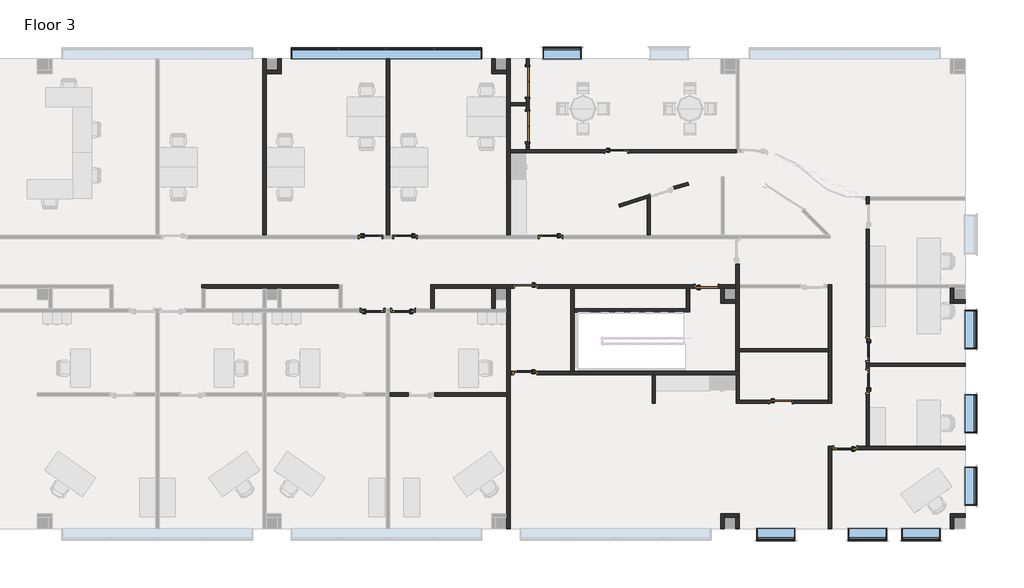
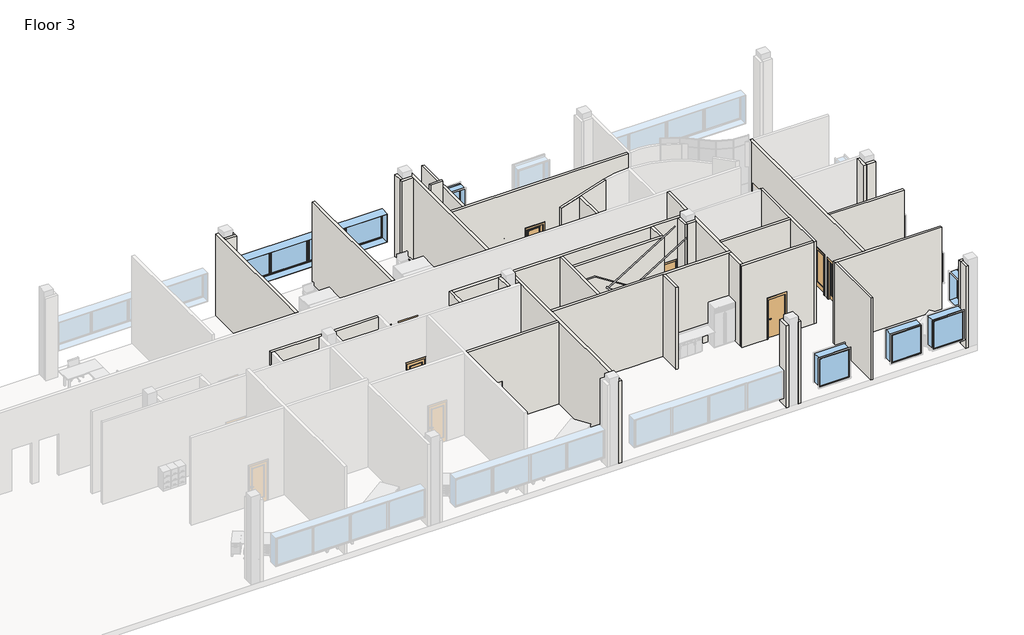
# One storey, part 3 of 6: 41 walls, 15 doors, 8 windows.
"""IFC4 building model written with IfcOpenShell, lengths in millimetres."""

from ifc_helpers import new_model, si_unit, frame, origin, place, context, project, spatial, polyline, outline, extrude, faceted_brep, transform, mapped, element, save
from components import door_4331e645, door_36f17018, door_a8315dbd, door_4cfbdd5f, door_4a7c4c71, door_b5f71497, door_dac99271, window_casement_multi_sash_horizontal_25_x_5ft_0e5d08e3, window_45f0c9e0

model = new_model("IFC4")

# Units and contexts
model_context = context("Model", 3, world=origin())
ifc_project = project(units=[si_unit("LENGTHUNIT", "METRE", prefix="MILLI")], contexts=[model_context])

# Site, building, storey
site = spatial("IfcSite", under=ifc_project)
building = spatial("IfcBuilding", under=site)
storey = spatial("IfcBuildingStorey", under=building, Name="Floor 3", Elevation=10210.8)

# Doors
placement = place(None, origin())
door_shape = door_4331e645(model_context)
element("IfcDoor", 1, ObjectType="Door-Double-Flush_Panel : 48\" x 84\"", at=placement, inside=storey, context=model_context, shape_type="MappedRepresentation", body=[
    mapped(door_shape, transform((44045.2192024, 56452.299389, 10210.8), x_axis=(0.0, -1.0, 0.0), y_axis=(1.0, 0.0, 0.0), z_axis=(0.0, 0.0, 1.0))),
])
element("IfcDoor", 2, ObjectType="Door-Double-Flush_Panel : 48\" x 84\"", at=placement, inside=storey, context=model_context, shape_type="MappedRepresentation", body=[
    mapped(door_shape, transform((44045.2192024, 54660.011889, 10210.8), x_axis=(0.0, -1.0, 0.0), y_axis=(1.0, 0.0, 0.0), z_axis=(0.0, 0.0, 1.0))),
])
door_2_shape = door_36f17018(model_context)
element("IfcDoor", 3, ObjectType="Door-Passage-Single-Flush : 36\" x 84\"", at=placement, inside=storey, context=model_context, shape_type="MappedRepresentation", body=[
    mapped(door_2_shape, transform((51188.9692024, 48297.311889, 10210.8), x_axis=(1.0, 0.0, 0.0), y_axis=(0.0, 1.0, 0.0), z_axis=(0.0, 0.0, 1.0))),
])
element("IfcDoor", 4, ObjectType="Door-Passage-Single-Flush : 36\" x 84\"", at=placement, inside=storey, context=model_context, shape_type="MappedRepresentation", body=[
    mapped(door_2_shape, transform((43969.0192024, 48284.611889, 10210.8), x_axis=(-1.0, 0.0, 0.0), y_axis=(0.0, -1.0, 0.0), z_axis=(0.0, 0.0, 1.0))),
])
door_3_shape = door_a8315dbd(model_context)
element("IfcDoor", 5, ObjectType="Door-Passage-Single-Flush : 36\" x 84\"", at=placement, inside=storey, context=model_context, shape_type="MappedRepresentation", body=[
    mapped(door_3_shape, transform((54154.4192024, 43674.511889, 10210.8), x_axis=(1.0, 0.0, 0.0), y_axis=(0.0, 1.0, 0.0), z_axis=(0.0, 0.0, 1.0))),
])
door_4_shape = door_4cfbdd5f(model_context)
element("IfcDoor", 6, ObjectType="Door-Passage-Single-Full_Lite : 36\" x 84\"", at=placement, inside=storey, context=model_context, shape_type="MappedRepresentation", body=[
    mapped(door_4_shape, transform((39149.3692024, 50253.111889, 10210.8), x_axis=(-1.0, 0.0, 0.0), y_axis=(0.0, -1.0, 0.0), z_axis=(0.0, 0.0, 1.0))),
])
element("IfcDoor", 7, ObjectType="Door-Passage-Single-Full_Lite : 36\" x 84\"", at=placement, inside=storey, context=model_context, shape_type="MappedRepresentation", body=[
    mapped(door_4_shape, transform((37853.9692024, 47338.461889, 10210.8), x_axis=(1.0, 0.0, 0.0), y_axis=(0.0, 1.0, 0.0), z_axis=(0.0, 0.0, 1.0))),
])
element("IfcDoor", 8, ObjectType="Door-Passage-Single-Full_Lite : 36\" x 84\"", at=placement, inside=storey, context=model_context, shape_type="MappedRepresentation", body=[
    mapped(door_4_shape, transform((44959.6192024, 50253.111889, 10210.8), x_axis=(-1.0, 0.0, 0.0), y_axis=(0.0, -1.0, 0.0), z_axis=(0.0, 0.0, 1.0))),
])
element("IfcDoor", 9, ObjectType="Door-Passage-Single-Full_Lite : 36\" x 84\"", at=placement, inside=storey, context=model_context, shape_type="MappedRepresentation", body=[
    mapped(door_4_shape, transform((43943.6192024, 44830.211889, 10210.8), x_axis=(-1.0, 0.0, 0.0), y_axis=(0.0, -1.0, 0.0), z_axis=(0.0, 0.0, 1.0))),
])
door_5_shape = door_4a7c4c71(model_context)
element("IfcDoor", 10, ObjectType="Door-Passage-Single-Full_Lite : 36\" x 84\"", at=placement, inside=storey, context=model_context, shape_type="MappedRepresentation", body=[
    mapped(door_5_shape, transform((37777.7692024, 50253.111889, 10210.8), x_axis=(1.0, 0.0, 0.0), y_axis=(0.0, 1.0, 0.0), z_axis=(0.0, 0.0, 1.0))),
])
element("IfcDoor", 11, ObjectType="Door-Passage-Single-Full_Lite : 36\" x 84\"", at=placement, inside=storey, context=model_context, shape_type="MappedRepresentation", body=[
    mapped(door_5_shape, transform((39073.1692024, 47338.461889, 10210.8), x_axis=(-1.0, 0.0, 0.0), y_axis=(0.0, -1.0, 0.0), z_axis=(0.0, 0.0, 1.0))),
])
door_6_shape = door_b5f71497(model_context)
element("IfcDoor", 12, ObjectType="Door-Passage-Single-Full_Lite : 36\" x 84\"", at=placement, inside=storey, context=model_context, shape_type="MappedRepresentation", body=[
    mapped(door_6_shape, transform((57608.8192024, 44497.8952223, 10210.8), x_axis=(0.0, 1.0, 0.0), y_axis=(-1.0, 0.0, 0.0), z_axis=(0.0, 0.0, 1.0))),
])
door_7_shape = door_dac99271(model_context)
element("IfcDoor", 13, ObjectType="Door-Passage-Single-Full_Lite : 36\" x 84\"", at=placement, inside=storey, context=model_context, shape_type="MappedRepresentation", body=[
    mapped(door_7_shape, transform((47582.1692024, 53675.761889, 10210.8), x_axis=(1.0, 0.0, 0.0), y_axis=(0.0, 1.0, 0.0), z_axis=(0.0, 0.0, 1.0))),
])
element("IfcDoor", 14, ObjectType="Door-Passage-Single-Full_Lite : 36\" x 84\"", at=placement, inside=storey, context=model_context, shape_type="MappedRepresentation", body=[
    mapped(door_7_shape, transform((57608.8192024, 45767.8952223, 10210.8), x_axis=(0.0, -1.0, 0.0), y_axis=(1.0, 0.0, 0.0), z_axis=(0.0, 0.0, 1.0))),
])
element("IfcDoor", 15, ObjectType="Door-Passage-Single-Full_Lite : 36\" x 84\"", at=placement, inside=storey, context=model_context, shape_type="MappedRepresentation", body=[
    mapped(door_7_shape, transform((56719.8192024, 41845.711889, 10210.8), x_axis=(-1.0, 0.0, 0.0), y_axis=(0.0, -1.0, 0.0), z_axis=(0.0, 0.0, 1.0))),
])

# Walls
element("IfcWall", 16, ObjectType="Interior - 4 7/8\" Partition (1-hr)", at=placement, inside=storey, context=model_context, shape_type="Brep", body=[
    faceted_brep([(48090.1692024, 53620.199389, 12446.0), (48090.1692024, 53620.199389, 10210.8), (52365.3067024, 53620.199389, 10210.8), (52365.3067024, 53620.199389, 14630.4), (43353.0692024, 53620.199389, 14630.4), (43353.0692024, 53620.199389, 10210.8), (47074.1692024, 53620.199389, 10210.8), (47074.1692024, 53620.199389, 12446.0), (52365.3067024, 53744.024389, 10210.8), (48090.1692024, 53744.024389, 10210.8), (48090.1692024, 53744.024389, 12446.0), (47074.1692024, 53744.024389, 12446.0), (47074.1692024, 53744.024389, 10210.8), (44107.1317024, 53744.024389, 10210.8), (43983.3067024, 53744.024389, 10210.8), (43353.0692024, 53744.024389, 10210.8), (43353.0692024, 53744.024389, 14630.4), (43983.3067024, 53744.024389, 14630.4), (44107.1317024, 53744.024389, 14630.4), (52365.3067024, 53744.024389, 14630.4)], [[[0, 1, 2, 3, 4, 5, 6, 7]], [[8, 9, 10, 11, 12, 13, 14, 15, 16, 17, 18, 19]], [[2, 1, 9, 8]], [[6, 5, 15, 14, 13, 12]], [[8, 19, 3, 2]], [[16, 15, 5, 4]], [[19, 18, 17, 16, 4, 3]], [[10, 9, 1, 0]], [[11, 10, 0, 7]], [[12, 11, 7, 6]]]),
])
element("IfcWall", 17, ObjectType="Interior - 4 7/8\" Partition (1-hr)", at=placement, inside=storey, context=model_context, shape_type="Brep", body=[
    faceted_brep([(56048.3067024, 41777.449389, 10210.8), (56172.1317024, 41777.449389, 10210.8), (56211.8192024, 41777.449389, 10210.8), (56211.8192024, 41777.449389, 12446.0), (57227.8192024, 41777.449389, 12446.0), (57227.8192024, 41777.449389, 10210.8), (61502.9567024, 41777.449389, 10210.8), (61502.9567024, 41777.449389, 14630.4), (56172.1317024, 41777.449389, 14630.4), (56048.3067024, 41777.449389, 14630.4), (56211.8192024, 41901.274389, 12446.0), (56211.8192024, 41901.274389, 10210.8), (56048.3067024, 41901.274389, 10210.8), (56048.3067024, 41901.274389, 14630.4), (57553.2567024, 41901.274389, 14630.4), (57677.0817024, 41901.274389, 14630.4), (61502.9567024, 41901.274389, 14630.4), (61502.9567024, 41901.274389, 10210.8), (57677.0817024, 41901.274389, 10210.8), (57553.2567024, 41901.274389, 10210.8), (57227.8192024, 41901.274389, 10210.8), (57227.8192024, 41901.274389, 12446.0)], [[[0, 1, 2, 3, 4, 5, 6, 7, 8, 9]], [[10, 11, 12, 13, 14, 15, 16, 17, 18, 19, 20, 21]], [[12, 11, 2, 1, 0]], [[20, 19, 18, 17, 6, 5]], [[17, 16, 7, 6]], [[16, 15, 14, 13, 9, 8, 7]], [[13, 12, 0, 9]], [[3, 2, 11, 10]], [[4, 3, 10, 21]], [[5, 4, 21, 20]]]),
])
element("IfcWall", 18, ObjectType="Interior - 4 7/8\" Partition (1-hr)", at=placement, inside=storey, context=model_context, shape_type="Brep", body=[
    faceted_brep([(57553.2567024, 45259.8952223, 10210.8), (57553.2567024, 45005.8952223, 10210.8), (57553.2567024, 45005.8952223, 12446.0), (57553.2567024, 43989.8952223, 12446.0), (57553.2567024, 43989.8952223, 10210.8), (57553.2567024, 41901.274389, 10210.8), (57553.2567024, 41901.274389, 14630.4), (57553.2567024, 51740.023538, 14630.4), (57553.2567024, 51858.074389, 14630.4), (57553.2567024, 51858.074389, 10210.8), (57553.2567024, 51740.023538, 10210.8), (57553.2567024, 51592.961889, 10210.8), (57553.2567024, 51592.961889, 12446.0), (57553.2567024, 50576.961889, 12446.0), (57553.2567024, 50576.961889, 10210.8), (57553.2567024, 46275.8952223, 10210.8), (57553.2567024, 46275.8952223, 12446.0), (57553.2567024, 45259.8952223, 12446.0), (57677.0817024, 45005.8952223, 12446.0), (57677.0817024, 45005.8952223, 10210.8), (57677.0817024, 45096.3827223, 10210.8), (57677.0817024, 45220.2077223, 10210.8), (57677.0817024, 45259.8952223, 10210.8), (57677.0817024, 45259.8952223, 12446.0), (57677.0817024, 46275.8952223, 12446.0), (57677.0817024, 46275.8952223, 10210.8), (57677.0817024, 48236.986889, 10210.8), (57677.0817024, 48360.811889, 10210.8), (57677.0817024, 50576.961889, 10210.8), (57677.0817024, 50576.961889, 12446.0), (57677.0817024, 51592.961889, 12446.0), (57677.0817024, 51592.961889, 10210.8), (57677.0817024, 51734.249389, 10210.8), (57677.0817024, 51858.074389, 10210.8), (57677.0817024, 51858.074389, 14630.4), (57677.0817024, 51734.249389, 14630.4), (57677.0817024, 48360.811889, 14630.4), (57677.0817024, 48236.986889, 14630.4), (57677.0817024, 45220.2077223, 14630.4), (57677.0817024, 45096.3827223, 14630.4), (57677.0817024, 41901.274389, 14630.4), (57677.0817024, 41901.274389, 10210.8), (57677.0817024, 43989.8952223, 10210.8), (57677.0817024, 43989.8952223, 12446.0), (57618.0176704, 51858.074389, 10210.8), (57618.0176704, 51858.074389, 14630.4)], [[[0, 1, 2, 3, 4, 5, 6, 7, 8, 9, 10, 11, 12, 13, 14, 15, 16, 17]], [[18, 19, 20, 21, 22, 23, 24, 25, 26, 27, 28, 29, 30, 31, 32, 33, 34, 35, 36, 37, 38, 39, 40, 41, 42, 43]], [[33, 32, 31, 11, 10, 9, 44]], [[22, 21, 20, 19, 1, 0]], [[15, 14, 28, 27, 26, 25]], [[42, 41, 5, 4]], [[41, 40, 6, 5]], [[34, 33, 44, 9, 8, 45]], [[40, 39, 38, 37, 36, 35, 34, 45, 8, 7, 6]], [[12, 11, 31, 30]], [[13, 12, 30, 29]], [[14, 13, 29, 28]], [[23, 22, 0, 17]], [[24, 23, 17, 16]], [[25, 24, 16, 15]], [[2, 1, 19, 18]], [[3, 2, 18, 43]], [[4, 3, 43, 42]]]),
])
element("IfcWall", 19, ObjectType="Interior - 4 7/8\" Partition (1-hr)", at=placement, inside=storey, context=model_context, shape_type="SweptSolid", body=[
    extrude(outline(polyline([(57677.0817024, 45220.2077223), (61502.9567024, 45220.2077223), (61502.9567024, 45096.3827223), (57677.0817024, 45096.3827223), (57677.0817024, 45220.2077223)])), frame((0.0, 0.0, 10210.8), z_axis=(0.0, 0.0, 1.0), x_axis=(1.0, 0.0, 0.0)), (0.0, 0.0, 1.0), 4419.6),
])
element("IfcWall", 20, ObjectType="Interior - 4 7/8\" Partition (1-hr)", at=placement, inside=storey, context=model_context, shape_type="SweptSolid", body=[
    extrude(outline(polyline([(48939.4817024, 51844.9624606), (48939.4817024, 50329.311889), (48815.6567024, 50329.311889), (48815.6567024, 51805.4881798), (48939.4817024, 51844.9624606)])), frame((0.0, 0.0, 10210.8), z_axis=(0.0, 0.0, 1.0), x_axis=(1.0, 0.0, 0.0)), (0.0, 0.0, 1.0), 4419.6),
])
element("IfcWall", 21, ObjectType="Interior - 4 7/8\" Partition (1-hr)", at=placement, inside=storey, context=model_context, shape_type="Brep", body=[
    faceted_brep([(56048.3067024, 48352.874389, 10210.8), (56048.3067024, 48229.049389, 10210.8), (56048.3067024, 45800.174389, 10210.8), (56048.3067024, 45676.349389, 10210.8), (56048.3067024, 43742.774389, 10210.8), (56048.3067024, 43618.949389, 10210.8), (56048.3067024, 43618.949389, 14630.4), (56048.3067024, 43742.774389, 14630.4), (56048.3067024, 45676.349389, 14630.4), (56048.3067024, 45800.174389, 14630.4), (56048.3067024, 48229.049389, 14630.4), (56048.3067024, 48352.874389, 14630.4), (56172.1317024, 48352.874389, 10210.8), (56172.1317024, 48352.874389, 14630.4), (56172.1317024, 43618.949389, 14630.4), (56172.1317024, 43618.949389, 10210.8)], [[[0, 1, 2, 3, 4, 5, 6, 7, 8, 9, 10, 11]], [[12, 13, 14, 15]], [[5, 4, 3, 2, 1, 0, 12, 15]], [[6, 5, 15, 14]], [[0, 11, 13, 12]], [[11, 10, 9, 8, 7, 6, 14, 13]]]),
])
element("IfcWall", 22, ObjectType="Interior - 4 7/8\" Partition (1-hr)", at=placement, inside=storey, context=model_context, shape_type="Brep", body=[
    faceted_brep([(54662.4192024, 43618.949389, 12446.0), (54662.4192024, 43618.949389, 10210.8), (56048.3067024, 43618.949389, 10210.8), (56048.3067024, 43618.949389, 14630.4), (52371.6567024, 43618.949389, 14630.4), (52371.6567024, 43618.949389, 10210.8), (53646.4192024, 43618.949389, 10210.8), (53646.4192024, 43618.949389, 12446.0), (56048.3067024, 43742.774389, 10210.8), (54662.4192024, 43742.774389, 10210.8), (54662.4192024, 43742.774389, 12446.0), (53646.4192024, 43742.774389, 12446.0), (53646.4192024, 43742.774389, 10210.8), (52495.4817024, 43742.774389, 10210.8), (52371.6567024, 43742.774389, 10210.8), (52371.6567024, 43742.774389, 14630.4), (52495.4817024, 43742.774389, 14630.4), (56048.3067024, 43742.774389, 14630.4)], [[[0, 1, 2, 3, 4, 5, 6, 7]], [[8, 9, 10, 11, 12, 13, 14, 15, 16, 17]], [[2, 1, 9, 8]], [[6, 5, 14, 13, 12]], [[8, 17, 3, 2]], [[15, 14, 5, 4]], [[17, 16, 15, 4, 3]], [[10, 9, 1, 0]], [[11, 10, 0, 7]], [[12, 11, 7, 6]]]),
])
element("IfcWall", 23, ObjectType="Interior - 4 7/8\" Partition (1-hr)", at=placement, inside=storey, context=model_context, shape_type="SweptSolid", body=[
    extrude(outline(polyline([(52495.4817024, 44766.711889), (52495.4817024, 43742.774389), (52371.6567024, 43742.774389), (52371.6567024, 44766.711889), (52495.4817024, 44766.711889)])), frame((0.0, 0.0, 10210.8), z_axis=(0.0, 0.0, 1.0), x_axis=(1.0, 0.0, 0.0)), (0.0, 0.0, 1.0), 4419.6),
])
element("IfcWall", 24, ObjectType="Interior - 4 7/8\" Partition (1-hr)", at=placement, inside=storey, context=model_context, shape_type="SweptSolid", body=[
    extrude(outline(polyline([(49012.5067024, 43617.361889), (49012.5067024, 44766.711889), (49136.3317024, 44766.711889), (49136.3317024, 43617.361889), (49012.5067024, 43617.361889)])), frame((0.0, 0.0, 10210.8), z_axis=(0.0, 0.0, 1.0), x_axis=(1.0, 0.0, 0.0)), (0.0, 0.0, 1.0), 4419.6),
])
element("IfcWall", 25, ObjectType="Interior - 4 7/8\" Partition (1-hr)", at=placement, inside=storey, context=model_context, shape_type="SweptSolid", body=[
    extrude(outline(polyline([(52497.0692024, 45800.174389), (56048.3067024, 45800.174389), (56048.3067024, 45676.349389), (52497.0692024, 45676.349389), (52497.0692024, 45800.174389)])), frame((0.0, 0.0, 10210.8), z_axis=(0.0, 0.0, 1.0), x_axis=(1.0, 0.0, 0.0)), (0.0, 0.0, 1.0), 4419.6),
])
element("IfcWall", 26, ObjectType="Interior - 4 7/8\" Partition (1-hr)", at=placement, inside=storey, context=model_context, shape_type="SweptSolid", body=[
    extrude(outline(polyline([(56048.3067024, 38618.324389), (56048.3067024, 41777.449389), (56172.1317024, 41777.449389), (56172.1317024, 38618.324389), (56048.3067024, 38618.324389)])), frame((0.0, 0.0, 10210.8), z_axis=(0.0, 0.0, 1.0), x_axis=(1.0, 0.0, 0.0)), (0.0, 0.0, 1.0), 4419.6),
])
element("IfcWall", 27, ObjectType="Interior - 4 7/8\" Partition (1-hr)", at=placement, inside=storey, context=model_context, shape_type="Brep", body=[
    faceted_brep([(43983.3067024, 53744.024389, 14630.4), (43983.3067024, 57366.699389, 14630.4), (43983.3067024, 57366.699389, 10210.8), (43983.3067024, 57061.899389, 10210.8), (43983.3067024, 57061.899389, 12344.4), (43983.3067024, 55842.699389, 12344.4), (43983.3067024, 55842.699389, 10210.8), (43983.3067024, 55618.068139, 10210.8), (43983.3067024, 55494.243139, 10210.8), (43983.3067024, 55269.611889, 10210.8), (43983.3067024, 55269.611889, 12344.4), (43983.3067024, 54050.411889, 12344.4), (43983.3067024, 54050.411889, 10210.8), (43983.3067024, 53744.024389, 10210.8), (44107.1317024, 57366.699389, 14630.4), (44107.1317024, 53744.024389, 14630.4), (44107.1317024, 53744.024389, 10210.8), (44107.1317024, 54050.411889, 10210.8), (44107.1317024, 54050.411889, 12344.4), (44107.1317024, 55269.611889, 12344.4), (44107.1317024, 55269.611889, 10210.8), (44107.1317024, 55842.699389, 10210.8), (44107.1317024, 55842.699389, 12344.4), (44107.1317024, 57061.899389, 12344.4), (44107.1317024, 57061.899389, 10210.8), (44107.1317024, 57366.699389, 10210.8)], [[[0, 1, 2, 3, 4, 5, 6, 7, 8, 9, 10, 11, 12, 13]], [[14, 15, 16, 17, 18, 19, 20, 21, 22, 23, 24, 25]], [[2, 25, 24, 3]], [[16, 13, 12, 17]], [[6, 21, 20, 9, 8, 7]], [[15, 14, 1, 0]], [[14, 25, 2, 1]], [[16, 15, 0, 13]], [[5, 22, 21, 6]], [[22, 5, 4, 23]], [[23, 4, 3, 24]], [[11, 18, 17, 12]], [[18, 11, 10, 19]], [[19, 10, 9, 20]]]),
])
element("IfcWall", 28, ObjectType="Interior - 4 7/8\" Partition (1-hr)", at=placement, inside=storey, context=model_context, shape_type="SweptSolid", body=[
    extrude(outline(polyline([(43353.0692024, 55618.068139), (43983.3067024, 55618.068139), (43983.3067024, 55494.243139), (43353.0692024, 55494.243139), (43353.0692024, 55618.068139)])), frame((0.0, 0.0, 10210.8), z_axis=(0.0, 0.0, 1.0), x_axis=(1.0, 0.0, 0.0)), (0.0, 0.0, 1.0), 4724.4),
])
element("IfcWall", 29, ObjectType="Interior - 4 7/8\" Partition (1-hr)", at=placement, inside=storey, context=model_context, shape_type="Brep", body=[
    faceted_brep([(47674.7585037, 51571.745039, 10210.8), (47674.7585037, 51571.745039, 14630.4), (50433.5644845, 52451.2272276, 14630.4), (50433.5644845, 52451.2272276, 10210.8), (49876.9632779, 52273.7878387, 10210.8), (49876.9632779, 52273.7878387, 12446.0), (48908.9611793, 51965.1975971, 12446.0), (48908.9611793, 51965.1975971, 10210.8), (47712.3679394, 51453.7697832, 14630.4), (47712.3679394, 51453.7697832, 10210.8), (48815.6567024, 51805.4881798, 10210.8), (48939.4817024, 51844.9624606, 10210.8), (48946.570615, 51847.2223413, 10210.8), (48946.570615, 51847.2223413, 12446.0), (49914.5727136, 52155.8125829, 12446.0), (49914.5727136, 52155.8125829, 10210.8), (50471.1739202, 52333.2519719, 10210.8), (50471.1739202, 52333.2519719, 14630.4), (48939.4817024, 51844.9624606, 14630.4), (48815.6567024, 51805.4881798, 14630.4)], [[[0, 1, 2, 3, 4, 5, 6, 7]], [[8, 9, 10, 11, 12, 13, 14, 15, 16, 17, 18, 19]], [[9, 0, 7, 12, 11, 10]], [[3, 16, 15, 4]], [[1, 0, 9, 8]], [[3, 2, 17, 16]], [[6, 13, 12, 7]], [[13, 6, 5, 14]], [[14, 5, 4, 15]], [[2, 1, 8, 19, 18, 17]]]),
])
element("IfcWall", 30, ObjectType="Interior - 5 1/2\" Partition (1-hr)", at=placement, inside=storey, context=model_context, shape_type="SweptSolid", body=[
    extrude(outline(polyline([(50382.5192024, 47401.961889), (50382.5192024, 48221.111889), (50522.2192024, 48221.111889), (50522.2192024, 47401.961889), (50382.5192024, 47401.961889)])), frame((0.0, 0.0, 10210.8), z_axis=(0.0, 0.0, 1.0), x_axis=(1.0, 0.0, 0.0)), (0.0, 0.0, 1.0), 4419.6),
])
element("IfcWall", 31, ObjectType="Interior - 5 1/2\" Partition (1-hr)", at=placement, inside=storey, context=model_context, shape_type="Brep", body=[
    faceted_brep([(51760.4692024, 48221.111889, 10210.8), (51760.4692024, 47624.211889, 10210.8), (51760.4692024, 47624.211889, 14630.4), (51760.4692024, 48221.111889, 14630.4), (51900.1692024, 48221.111889, 10210.8), (51900.1692024, 48221.111889, 14630.4), (51900.1692024, 47763.911889, 14630.4), (51900.1692024, 47624.211889, 14630.4), (51900.1692024, 47624.211889, 10210.8), (51900.1692024, 47763.911889, 10210.8)], [[[0, 1, 2, 3]], [[4, 5, 6, 7, 8, 9]], [[1, 0, 4, 9, 8]], [[2, 1, 8, 7]], [[0, 3, 5, 4]], [[3, 2, 7, 6, 5]]]),
])
element("IfcWall", 32, ObjectType="Interior - 5 1/2\" Partition (1-hr)", at=placement, inside=storey, context=model_context, shape_type="SweptSolid", body=[
    extrude(outline(polyline([(51900.1692024, 47763.911889), (52357.3692024, 47763.911889), (52357.3692024, 47624.211889), (51900.1692024, 47624.211889), (51900.1692024, 47763.911889)])), frame((0.0, 0.0, 10210.8), z_axis=(0.0, 0.0, 1.0), x_axis=(1.0, 0.0, 0.0)), (0.0, 0.0, 1.0), 4419.6),
])
element("IfcWall", 33, ObjectType="Interior - 5 1/2\" Partition (1-hr)", at=placement, inside=storey, context=model_context, shape_type="Brep", body=[
    faceted_brep([(45759.7192024, 48221.111889, 10210.8), (45759.7192024, 44906.411889, 10210.8), (45759.7192024, 44906.411889, 14630.4), (45759.7192024, 48221.111889, 14630.4), (45899.4192024, 48221.111889, 10210.8), (45899.4192024, 48221.111889, 14630.4), (45899.4192024, 47401.961889, 14630.4), (45899.4192024, 47262.261889, 14630.4), (45899.4192024, 44906.411889, 14630.4), (45899.4192024, 44906.411889, 10210.8), (45899.4192024, 47262.261889, 10210.8), (45899.4192024, 47401.961889, 10210.8)], [[[0, 1, 2, 3]], [[4, 5, 6, 7, 8, 9, 10, 11]], [[1, 0, 4, 11, 10, 9]], [[2, 1, 9, 8]], [[0, 3, 5, 4]], [[3, 2, 8, 7, 6, 5]]]),
])
element("IfcWall", 34, ObjectType="Interior - 5 1/2\" Partition (1-hr)", at=placement, inside=storey, context=model_context, shape_type="Brep", body=[
    faceted_brep([(43435.6192024, 44906.411889, 12446.0), (43435.6192024, 44906.411889, 10210.8), (43353.0692024, 44906.411889, 10210.8), (43353.0692024, 44906.411889, 14630.4), (45759.7192024, 44906.411889, 14630.4), (45899.4192024, 44906.411889, 14630.4), (50327.5398084, 44906.411889, 14630.4), (52357.3692024, 44906.411889, 14630.4), (52495.4817024, 44906.411889, 14630.4), (52495.4817024, 44906.411889, 10210.8), (52357.3692024, 44906.411889, 10210.8), (45899.4192024, 44906.411889, 10210.8), (45759.7192024, 44906.411889, 10210.8), (44451.6192024, 44906.411889, 10210.8), (44451.6192024, 44906.411889, 12446.0), (43353.0692024, 44766.711889, 10210.8), (43435.6192024, 44766.711889, 10210.8), (43435.6192024, 44766.711889, 12446.0), (44451.6192024, 44766.711889, 12446.0), (44451.6192024, 44766.711889, 10210.8), (49012.5067024, 44766.711889, 10210.8), (49136.3317024, 44766.711889, 10210.8), (52371.6567024, 44766.711889, 10210.8), (52495.4817024, 44766.711889, 10210.8), (52495.4817024, 44766.711889, 14630.4), (52371.6567024, 44766.711889, 14630.4), (49136.3317024, 44766.711889, 14630.4), (49012.5067024, 44766.711889, 14630.4), (43353.0692024, 44766.711889, 14630.4)], [[[0, 1, 2, 3, 4, 5, 6, 7, 8, 9, 10, 11, 12, 13, 14]], [[15, 16, 17, 18, 19, 20, 21, 22, 23, 24, 25, 26, 27, 28]], [[2, 1, 16, 15]], [[13, 12, 11, 10, 9, 23, 22, 21, 20, 19]], [[15, 28, 3, 2]], [[24, 23, 9, 8]], [[28, 27, 26, 25, 24, 8, 7, 6, 5, 4, 3]], [[17, 16, 1, 0]], [[18, 17, 0, 14]], [[19, 18, 14, 13]]]),
])
element("IfcWall", 35, ObjectType="Interior - 5 1/2\" Partition (1-hr)", at=placement, inside=storey, context=model_context, shape_type="Brep", body=[
    faceted_brep([(45899.4192024, 47262.261889, 10210.8), (50522.2192024, 47262.261889, 10210.8), (50522.2192024, 47262.261889, 14630.4), (50253.8139908, 47262.261889, 14630.4), (45899.4192024, 47262.261889, 14630.4), (45899.4192024, 47401.961889, 10210.8), (45899.4192024, 47401.961889, 14630.4), (50382.5192024, 47401.961889, 14630.4), (50522.2192024, 47401.961889, 14630.4), (50522.2192024, 47401.961889, 10210.8), (50382.5192024, 47401.961889, 10210.8)], [[[0, 1, 2, 3, 4]], [[5, 6, 7, 8, 9, 10]], [[1, 0, 5, 10, 9]], [[2, 1, 9, 8]], [[0, 4, 6, 5]], [[4, 3, 2, 8, 7, 6]]]),
])
element("IfcWall", 36, ObjectType="Interior - 5 1/2\" Partition (1-hr)", at=placement, inside=storey, context=model_context, shape_type="Brep", body=[
    faceted_brep([(43213.3692024, 48221.111889, 10210.8), (43213.3692024, 47401.961889, 10210.8), (43213.3692024, 47262.261889, 10210.8), (43213.3692024, 44049.161889, 10210.8), (43213.3692024, 43909.461889, 10210.8), (43213.3692024, 39216.811889, 10210.8), (43213.3692024, 39077.111889, 10210.8), (43213.3692024, 38618.324389, 10210.8), (43213.3692024, 38618.324389, 14630.4), (43213.3692024, 39077.111889, 14630.4), (43213.3692024, 39216.811889, 14630.4), (43213.3692024, 43909.461889, 14630.4), (43213.3692024, 44049.161889, 14630.4), (43213.3692024, 47262.261889, 14630.4), (43213.3692024, 47401.961889, 14630.4), (43213.3692024, 48221.111889, 14630.4), (43353.0692024, 48221.111889, 10210.8), (43353.0692024, 48221.111889, 14630.4), (43353.0692024, 44906.411889, 14630.4), (43353.0692024, 44766.711889, 14630.4), (43353.0692024, 38618.324389, 14630.4), (43353.0692024, 38618.324389, 10210.8), (43353.0692024, 44766.711889, 10210.8), (43353.0692024, 44906.411889, 10210.8)], [[[0, 1, 2, 3, 4, 5, 6, 7, 8, 9, 10, 11, 12, 13, 14, 15]], [[16, 17, 18, 19, 20, 21, 22, 23]], [[7, 6, 5, 4, 3, 2, 1, 0, 16, 23, 22, 21]], [[8, 7, 21, 20]], [[0, 15, 17, 16]], [[15, 14, 13, 12, 11, 10, 9, 8, 20, 19, 18, 17]]]),
])
element("IfcWall", 37, ObjectType="Interior - 5 1/2\" Partition (1-hr)", at=placement, inside=storey, context=model_context, shape_type="Brep", body=[
    faceted_brep([(43353.0692024, 50329.311889, 10210.8), (43353.0692024, 53620.199389, 10210.8), (43353.0692024, 53744.024389, 10210.8), (43353.0692024, 55494.243139, 10210.8), (43353.0692024, 55618.068139, 10210.8), (43353.0692024, 57366.699389, 10210.8), (43353.0692024, 57366.699389, 14630.4), (43353.0692024, 53744.024389, 14630.4), (43353.0692024, 53620.199389, 14630.4), (43353.0692024, 50329.311889, 14630.4), (43213.3692024, 50329.311889, 10210.8), (43213.3692024, 50329.311889, 14630.4), (43213.3692024, 56768.211889, 14630.4), (43213.3692024, 56907.911889, 14630.4), (43213.3692024, 57366.699389, 14630.4), (43213.3692024, 57366.699389, 10210.8), (43213.3692024, 56907.911889, 10210.8), (43213.3692024, 56768.211889, 10210.8)], [[[0, 1, 2, 3, 4, 5, 6, 7, 8, 9]], [[10, 11, 12, 13, 14, 15, 16, 17]], [[5, 4, 3, 2, 1, 0, 10, 17, 16, 15]], [[0, 9, 11, 10]], [[6, 5, 15, 14]], [[9, 8, 7, 6, 14, 13, 12, 11]]]),
])
element("IfcWall", 38, ObjectType="Interior - 5 1/2\" Partition (1-hr)", at=placement, inside=storey, context=model_context, shape_type="Brep", body=[
    faceted_brep([(43213.3692024, 56907.911889, 10210.8), (42756.1692024, 56907.911889, 10210.8), (42616.4692024, 56907.911889, 10210.8), (42616.4692024, 56907.911889, 14630.4), (42756.1692024, 56907.911889, 14630.4), (43213.3692024, 56907.911889, 14630.4), (43213.3692024, 56768.211889, 10210.8), (43213.3692024, 56768.211889, 14630.4), (42616.4692024, 56768.211889, 14630.4), (42616.4692024, 56768.211889, 10210.8)], [[[0, 1, 2, 3, 4, 5]], [[6, 7, 8, 9]], [[2, 1, 0, 6, 9]], [[3, 2, 9, 8]], [[0, 5, 7, 6]], [[5, 4, 3, 8, 7]]]),
])
element("IfcWall", 39, ObjectType="Interior - 5 1/2\" Partition (1-hr)", at=placement, inside=storey, context=model_context, shape_type="SweptSolid", body=[
    extrude(outline(polyline([(42756.1692024, 57366.699389), (42756.1692024, 56907.911889), (42616.4692024, 56907.911889), (42616.4692024, 57366.699389), (42756.1692024, 57366.699389)])), frame((0.0, 0.0, 10210.8), z_axis=(0.0, 0.0, 1.0), x_axis=(1.0, 0.0, 0.0)), (0.0, 0.0, 1.0), 4419.6),
])
element("IfcWall", 40, ObjectType="Interior - 5 1/2\" Partition (1-hr)", at=placement, inside=storey, context=model_context, shape_type="Brep", body=[
    faceted_brep([(33472.4692024, 57366.699389, 10210.8), (33472.4692024, 50329.311889, 10210.8), (33472.4692024, 50329.311889, 14630.4), (33472.4692024, 57366.699389, 14630.4), (33612.1692024, 57366.699389, 10210.8), (33612.1692024, 57366.699389, 14630.4), (33612.1692024, 56907.911889, 14630.4), (33612.1692024, 56768.211889, 14630.4), (33612.1692024, 50329.311889, 14630.4), (33612.1692024, 50329.311889, 10210.8), (33612.1692024, 56768.211889, 10210.8), (33612.1692024, 56907.911889, 10210.8)], [[[0, 1, 2, 3]], [[4, 5, 6, 7, 8, 9, 10, 11]], [[1, 0, 4, 11, 10, 9]], [[0, 3, 5, 4]], [[2, 1, 9, 8]], [[3, 2, 8, 7, 6, 5]]]),
])
element("IfcWall", 41, ObjectType="Interior - 5 1/2\" Partition (1-hr)", at=placement, inside=storey, context=model_context, shape_type="Brep", body=[
    faceted_brep([(33612.1692024, 56768.211889, 10210.8), (34209.0692024, 56768.211889, 10210.8), (34209.0692024, 56768.211889, 14630.4), (33612.1692024, 56768.211889, 14630.4), (33612.1692024, 56907.911889, 10210.8), (33612.1692024, 56907.911889, 14630.4), (34069.3692024, 56907.911889, 14630.4), (34209.0692024, 56907.911889, 14630.4), (34209.0692024, 56907.911889, 10210.8), (34069.3692024, 56907.911889, 10210.8)], [[[0, 1, 2, 3]], [[4, 5, 6, 7, 8, 9]], [[1, 0, 4, 9, 8]], [[2, 1, 8, 7]], [[0, 3, 5, 4]], [[3, 2, 7, 6, 5]]]),
])
element("IfcWall", 42, ObjectType="Interior - 5 1/2\" Partition (1-hr)", at=placement, inside=storey, context=model_context, shape_type="SweptSolid", body=[
    extrude(outline(polyline([(34209.0692024, 57366.699389), (34209.0692024, 56907.911889), (34069.3692024, 56907.911889), (34069.3692024, 57366.699389), (34209.0692024, 57366.699389)])), frame((0.0, 0.0, 10210.8), z_axis=(0.0, 0.0, 1.0), x_axis=(1.0, 0.0, 0.0)), (0.0, 0.0, 1.0), 4419.6),
])
element("IfcWall", 43, ObjectType="Interior - 5 1/2\" Partition (1-hr)", at=placement, inside=storey, context=model_context, shape_type="SweptSolid", body=[
    extrude(outline(polyline([(42756.1692024, 48221.111889), (42756.1692024, 47401.961889), (42616.4692024, 47401.961889), (42616.4692024, 48221.111889), (42756.1692024, 48221.111889)])), frame((0.0, 0.0, 10210.8), z_axis=(0.0, 0.0, 1.0), x_axis=(1.0, 0.0, 0.0)), (0.0, 0.0, 1.0), 4419.6),
])
element("IfcWall", 44, ObjectType="Interior - 5 1/2\" Partition (1-hr)", at=placement, inside=storey, context=model_context, shape_type="Brep", body=[
    faceted_brep([(31034.0692024, 48221.111889, 10210.8), (31173.7692024, 48221.111889, 10210.8), (33472.4692024, 48221.111889, 10210.8), (33612.1692024, 48221.111889, 10210.8), (34069.3692024, 48221.111889, 10210.8), (34209.0692024, 48221.111889, 10210.8), (36507.7692024, 48221.111889, 10210.8), (36507.7692024, 48221.111889, 14630.4), (34209.0692024, 48221.111889, 14630.4), (34069.3692024, 48221.111889, 14630.4), (33612.1692024, 48221.111889, 14630.4), (33472.4692024, 48221.111889, 14630.4), (31173.7692024, 48221.111889, 14630.4), (31034.0692024, 48221.111889, 14630.4), (31034.0692024, 48360.811889, 10210.8), (31034.0692024, 48360.811889, 14630.4), (36507.7692024, 48360.811889, 14630.4), (36507.7692024, 48360.811889, 10210.8)], [[[0, 1, 2, 3, 4, 5, 6, 7, 8, 9, 10, 11, 12, 13]], [[14, 15, 16, 17]], [[6, 5, 4, 3, 2, 1, 0, 14, 17]], [[0, 13, 15, 14]], [[7, 6, 17, 16]], [[13, 12, 11, 10, 9, 8, 7, 16, 15]]]),
])
element("IfcWall", 45, ObjectType="Interior - 5 1/2\" Partition (1-hr)", at=placement, inside=storey, context=model_context, shape_type="Brep", body=[
    faceted_brep([(40317.7692024, 47401.961889, 10210.8), (40317.7692024, 48221.111889, 10210.8), (40317.7692024, 48360.811889, 10210.8), (40317.7692024, 48360.811889, 14630.4), (40317.7692024, 48221.111889, 14630.4), (40317.7692024, 47401.961889, 14630.4), (40178.0692024, 47401.961889, 10210.8), (40178.0692024, 47401.961889, 14630.4), (40178.0692024, 48360.811889, 14630.4), (40178.0692024, 48360.811889, 10210.8)], [[[0, 1, 2, 3, 4, 5]], [[6, 7, 8, 9]], [[2, 1, 0, 6, 9]], [[3, 2, 9, 8]], [[0, 5, 7, 6]], [[5, 4, 3, 8, 7]]]),
])
element("IfcWall", 46, ObjectType="Interior - 5 1/2\" Partition (1-hr)", at=placement, inside=storey, context=model_context, shape_type="Brep", body=[
    faceted_brep([(40317.7692024, 48221.111889, 10210.8), (42616.4692024, 48221.111889, 10210.8), (42756.1692024, 48221.111889, 10210.8), (43213.3692024, 48221.111889, 10210.8), (43353.0692024, 48221.111889, 10210.8), (43461.0192024, 48221.111889, 10210.8), (43461.0192024, 48221.111889, 12446.0), (44477.0192024, 48221.111889, 12446.0), (44477.0192024, 48221.111889, 10210.8), (45759.7192024, 48221.111889, 10210.8), (45899.4192024, 48221.111889, 10210.8), (50382.5192024, 48221.111889, 10210.8), (50522.2192024, 48221.111889, 10210.8), (50680.9692024, 48221.111889, 10210.8), (50680.9692024, 48221.111889, 12446.0), (51696.9692024, 48221.111889, 12446.0), (51696.9692024, 48221.111889, 10210.8), (51760.4692024, 48221.111889, 10210.8), (51900.1692024, 48221.111889, 10210.8), (52357.3692024, 48221.111889, 10210.8), (52357.3692024, 48221.111889, 14630.4), (51900.1692024, 48221.111889, 14630.4), (51760.4692024, 48221.111889, 14630.4), (50522.2192024, 48221.111889, 14630.4), (50382.5192024, 48221.111889, 14630.4), (45899.4192024, 48221.111889, 14630.4), (45759.7192024, 48221.111889, 14630.4), (43353.0692024, 48221.111889, 14630.4), (43213.3692024, 48221.111889, 14630.4), (42756.1692024, 48221.111889, 14630.4), (42616.4692024, 48221.111889, 14630.4), (40317.7692024, 48221.111889, 14630.4), (43461.0192024, 48360.811889, 12446.0), (43461.0192024, 48360.811889, 10210.8), (40317.7692024, 48360.811889, 10210.8), (40317.7692024, 48360.811889, 14630.4), (52357.3692024, 48360.811889, 14630.4), (52357.3692024, 48360.811889, 10210.8), (51696.9692024, 48360.811889, 10210.8), (51696.9692024, 48360.811889, 12446.0), (50680.9692024, 48360.811889, 12446.0), (50680.9692024, 48360.811889, 10210.8), (44477.0192024, 48360.811889, 10210.8), (44477.0192024, 48360.811889, 12446.0)], [[[0, 1, 2, 3, 4, 5, 6, 7, 8, 9, 10, 11, 12, 13, 14, 15, 16, 17, 18, 19, 20, 21, 22, 23, 24, 25, 26, 27, 28, 29, 30, 31]], [[32, 33, 34, 35, 36, 37, 38, 39, 40, 41, 42, 43]], [[19, 18, 17, 16, 38, 37]], [[34, 33, 5, 4, 3, 2, 1, 0]], [[42, 41, 13, 12, 11, 10, 9, 8]], [[0, 31, 35, 34]], [[31, 30, 29, 28, 27, 26, 25, 24, 23, 22, 21, 20, 36, 35]], [[20, 19, 37, 36]], [[39, 38, 16, 15]], [[40, 39, 15, 14]], [[41, 40, 14, 13]], [[6, 5, 33, 32]], [[7, 6, 32, 43]], [[8, 7, 43, 42]]]),
])
element("IfcWall", 47, ObjectType="Interior - 5 1/2\" Partition (1-hr)", at=placement, inside=storey, context=model_context, shape_type="Brep", body=[
    faceted_brep([(51900.1692024, 38618.324389, 10210.8), (51900.1692024, 39077.111889, 10210.8), (51900.1692024, 39216.811889, 10210.8), (51900.1692024, 39216.811889, 14630.4), (51900.1692024, 39077.111889, 14630.4), (51900.1692024, 38618.324389, 14630.4), (51760.4692024, 38618.324389, 10210.8), (51760.4692024, 38618.324389, 14630.4), (51760.4692024, 39216.811889, 14630.4), (51760.4692024, 39216.811889, 10210.8)], [[[0, 1, 2, 3, 4, 5]], [[6, 7, 8, 9]], [[2, 1, 0, 6, 9]], [[3, 2, 9, 8]], [[0, 5, 7, 6]], [[5, 4, 3, 8, 7]]]),
])
element("IfcWall", 48, ObjectType="Interior - 5 1/2\" Partition (1-hr)", at=placement, inside=storey, context=model_context, shape_type="Brep", body=[
    faceted_brep([(51900.1692024, 39077.111889, 10210.8), (52357.3692024, 39077.111889, 10210.8), (52497.0692024, 39077.111889, 10210.8), (52497.0692024, 39077.111889, 14630.4), (52357.3692024, 39077.111889, 14630.4), (51900.1692024, 39077.111889, 14630.4), (51900.1692024, 39216.811889, 10210.8), (51900.1692024, 39216.811889, 14630.4), (52497.0692024, 39216.811889, 14630.4), (52497.0692024, 39216.811889, 10210.8)], [[[0, 1, 2, 3, 4, 5]], [[6, 7, 8, 9]], [[2, 1, 0, 6, 9]], [[3, 2, 9, 8]], [[0, 5, 7, 6]], [[5, 4, 3, 8, 7]]]),
])
element("IfcWall", 49, ObjectType="Interior - 5 1/2\" Partition (1-hr)", at=placement, inside=storey, context=model_context, shape_type="SweptSolid", body=[
    extrude(outline(polyline([(52357.3692024, 38618.324389), (52357.3692024, 39077.111889), (52497.0692024, 39077.111889), (52497.0692024, 38618.324389), (52357.3692024, 38618.324389)])), frame((0.0, 0.0, 10210.8), z_axis=(0.0, 0.0, 1.0), x_axis=(1.0, 0.0, 0.0)), (0.0, 0.0, 1.0), 4419.6),
])
element("IfcWall", 50, ObjectType="Interior - 5 1/2\" Partition (1-hr)", at=placement, inside=storey, context=model_context, shape_type="Brep", body=[
    faceted_brep([(61502.9567024, 39216.811889, 10210.8), (60904.4692024, 39216.811889, 10210.8), (60904.4692024, 39216.811889, 14630.4), (61502.9567024, 39216.811889, 14630.4), (61502.9567024, 39077.111889, 10210.8), (61502.9567024, 39077.111889, 14630.4), (61044.1692024, 39077.111889, 14630.4), (60904.4692024, 39077.111889, 14630.4), (60904.4692024, 39077.111889, 10210.8), (61044.1692024, 39077.111889, 10210.8)], [[[0, 1, 2, 3]], [[4, 5, 6, 7, 8, 9]], [[1, 0, 4, 9, 8]], [[2, 1, 8, 7]], [[0, 3, 5, 4]], [[3, 2, 7, 6, 5]]]),
])
element("IfcWall", 51, ObjectType="Interior - 5 1/2\" Partition (1-hr)", at=placement, inside=storey, context=model_context, shape_type="SweptSolid", body=[
    extrude(outline(polyline([(60904.4692024, 38618.324389), (60904.4692024, 39077.111889), (61044.1692024, 39077.111889), (61044.1692024, 38618.324389), (60904.4692024, 38618.324389)])), frame((0.0, 0.0, 10210.8), z_axis=(0.0, 0.0, 1.0), x_axis=(1.0, 0.0, 0.0)), (0.0, 0.0, 1.0), 4419.6),
])
element("IfcWall", 52, ObjectType="Interior - 5 1/2\" Partition (1-hr)", at=placement, inside=storey, context=model_context, shape_type="Brep", body=[
    faceted_brep([(60904.4692024, 48221.111889, 10210.8), (60904.4692024, 47624.211889, 10210.8), (60904.4692024, 47624.211889, 14630.4), (60904.4692024, 48221.111889, 14630.4), (61044.1692024, 48221.111889, 10210.8), (61044.1692024, 48221.111889, 14630.4), (61044.1692024, 47763.911889, 14630.4), (61044.1692024, 47624.211889, 14630.4), (61044.1692024, 47624.211889, 10210.8), (61044.1692024, 47763.911889, 10210.8)], [[[0, 1, 2, 3]], [[4, 5, 6, 7, 8, 9]], [[1, 0, 4, 9, 8]], [[2, 1, 8, 7]], [[0, 3, 5, 4]], [[3, 2, 7, 6, 5]]]),
])
element("IfcWall", 53, ObjectType="Interior - 5 1/2\" Partition (1-hr)", at=placement, inside=storey, context=model_context, shape_type="SweptSolid", body=[
    extrude(outline(polyline([(61502.9567024, 47624.211889), (61044.1692024, 47624.211889), (61044.1692024, 47763.911889), (61502.9567024, 47763.911889), (61502.9567024, 47624.211889)])), frame((0.0, 0.0, 10210.8), z_axis=(0.0, 0.0, 1.0), x_axis=(1.0, 0.0, 0.0)), (0.0, 0.0, 1.0), 4419.6),
])
element("IfcWall", 54, ObjectType="Interior - 5 1/2\" Partition (1-hr)", at=placement, inside=storey, context=model_context, shape_type="SweptSolid", body=[
    extrude(outline(polyline([(38533.4192024, 57366.699389), (38533.4192024, 50329.311889), (38393.7192024, 50329.311889), (38393.7192024, 57366.699389), (38533.4192024, 57366.699389)])), frame((0.0, 0.0, 10210.8), z_axis=(0.0, 0.0, 1.0), x_axis=(1.0, 0.0, 0.0)), (0.0, 0.0, 1.0), 4419.6),
])
element("IfcWall", 55, ObjectType="Interior - 5 1/2\" Partition (1-hr)", at=placement, inside=storey, context=model_context, shape_type="SweptSolid", body=[
    extrude(outline(polyline([(10210.8, 38533.4192024), (10210.8, 39301.7692024), (12446.0, 39301.7692024), (12446.0, 40317.7692024), (10210.8, 40317.7692024), (10210.8, 43213.3692024), (14630.4, 43213.3692024), (14630.4, 38533.4192024), (10210.8, 38533.4192024)])), frame((0.0, 43909.461889, 0.0), z_axis=(0.0, 1.0, 0.0), x_axis=(0.0, 0.0, 1.0)), (0.0, 0.0, 1.0), 139.7),
])
element("IfcWall", 56, ObjectType="Interior - 5 1/2\" Partition (1-hr)", at=placement, inside=storey, context=model_context, shape_type="Brep", body=[
    faceted_brep([(52497.0692024, 50189.611889, 14630.4), (52497.0692024, 48352.874389, 14630.4), (52497.0692024, 48229.049389, 14630.4), (52497.0692024, 45800.174389, 14630.4), (52497.0692024, 45676.349389, 14630.4), (52497.0692024, 44906.411889, 14630.4), (52497.0692024, 44906.411889, 10210.8), (52497.0692024, 45676.349389, 10210.8), (52497.0692024, 45800.174389, 10210.8), (52497.0692024, 48229.049389, 10210.8), (52497.0692024, 48352.874389, 10210.8), (52497.0692024, 49167.261889, 10210.8), (52497.0692024, 49167.261889, 12446.0), (52497.0692024, 50183.261889, 12446.0), (52497.0692024, 50183.261889, 10210.8), (52497.0692024, 50189.611889, 10210.8), (52357.3692024, 44906.411889, 14630.4), (52357.3692024, 47624.211889, 14630.4), (52357.3692024, 47763.911889, 14630.4), (52357.3692024, 48221.111889, 14630.4), (52357.3692024, 48360.811889, 14630.4), (52357.3692024, 50189.611889, 14630.4), (52357.3692024, 50189.611889, 10210.8), (52357.3692024, 50183.261889, 10210.8), (52357.3692024, 50183.261889, 12446.0), (52357.3692024, 49167.261889, 12446.0), (52357.3692024, 49167.261889, 10210.8), (52357.3692024, 48360.811889, 10210.8), (52357.3692024, 48221.111889, 10210.8), (52357.3692024, 47763.911889, 10210.8), (52357.3692024, 47624.211889, 10210.8), (52357.3692024, 44906.411889, 10210.8), (52495.4817024, 44906.411889, 10210.8), (52495.4817024, 44906.411889, 14630.4)], [[[0, 1, 2, 3, 4, 5, 6, 7, 8, 9, 10, 11, 12, 13, 14, 15]], [[16, 17, 18, 19, 20, 21, 22, 23, 24, 25, 26, 27, 28, 29, 30, 31]], [[6, 32, 31, 30, 29, 28, 27, 26, 11, 10, 9, 8, 7]], [[22, 15, 14, 23]], [[21, 20, 19, 18, 17, 16, 33, 5, 4, 3, 2, 1, 0]], [[16, 31, 32, 6, 5, 33]], [[22, 21, 0, 15]], [[13, 24, 23, 14]], [[24, 13, 12, 25]], [[25, 12, 11, 26]]]),
])

# Windows
window_casement_multi_sash_horizontal_25_x_5ft_shape = window_casement_multi_sash_horizontal_25_x_5ft_0e5d08e3(model_context)
element("IfcWindow", 57, ObjectType="Window-Casement-Multi-Sash-Horizontal : 25 x 5ft", at=placement, inside=storey, context=model_context, shape_type="MappedRepresentation", body=[
    mapped(window_casement_multi_sash_horizontal_25_x_5ft_shape, transform((38412.7692024, 57593.711889, 10210.8), x_axis=(1.0, 0.0, 0.0), y_axis=(0.0, 1.0, 0.0), z_axis=(0.0, 0.0, 1.0))),
])
window_shape = window_45f0c9e0(model_context)
element("IfcWindow", 58, ObjectType="Window-Fixed : 60\" x 60\"", at=placement, inside=storey, context=model_context, shape_type="MappedRepresentation", body=[
    mapped(window_shape, transform((61729.9692024, 40315.361889, 10210.8), x_axis=(0.0, -1.0, 0.0), y_axis=(1.0, 0.0, 0.0), z_axis=(0.0, 0.0, 1.0))),
])
element("IfcWindow", 59, ObjectType="Window-Fixed : 60\" x 60\"", at=placement, inside=storey, context=model_context, shape_type="MappedRepresentation", body=[
    mapped(window_shape, transform((61729.9692024, 46563.761889, 10210.8), x_axis=(0.0, -1.0, 0.0), y_axis=(1.0, 0.0, 0.0), z_axis=(0.0, 0.0, 1.0))),
])
element("IfcWindow", 60, ObjectType="Window-Fixed : 60\" x 60\"", at=placement, inside=storey, context=model_context, shape_type="MappedRepresentation", body=[
    mapped(window_shape, transform((61729.9692024, 43210.961889, 10210.8), x_axis=(0.0, -1.0, 0.0), y_axis=(1.0, 0.0, 0.0), z_axis=(0.0, 0.0, 1.0))),
])
element("IfcWindow", 61, ObjectType="Window-Fixed : 60\" x 60\"", at=placement, inside=storey, context=model_context, shape_type="MappedRepresentation", body=[
    mapped(window_shape, transform((45423.1692024, 57593.711889, 10210.8), x_axis=(1.0, 0.0, 0.0), y_axis=(0.0, 1.0, 0.0), z_axis=(0.0, 0.0, 1.0))),
])
element("IfcWindow", 62, ObjectType="Window-Fixed : 60\" x 60\"", at=placement, inside=storey, context=model_context, shape_type="MappedRepresentation", body=[
    mapped(window_shape, transform((53951.2192024, 38391.311889, 10210.8), x_axis=(-1.0, 0.0, 0.0), y_axis=(0.0, -1.0, 0.0), z_axis=(0.0, 0.0, 1.0))),
])
element("IfcWindow", 63, ObjectType="Window-Fixed : 60\" x 60\"", at=placement, inside=storey, context=model_context, shape_type="MappedRepresentation", body=[
    mapped(window_shape, transform((57608.8192024, 38391.311889, 10210.8), x_axis=(-1.0, 0.0, 0.0), y_axis=(0.0, -1.0, 0.0), z_axis=(0.0, 0.0, 1.0))),
])
element("IfcWindow", 64, ObjectType="Window-Fixed : 60\" x 60\"", at=placement, inside=storey, context=model_context, shape_type="MappedRepresentation", body=[
    mapped(window_shape, transform((59742.4192024, 38391.311889, 10210.8), x_axis=(-1.0, 0.0, 0.0), y_axis=(0.0, -1.0, 0.0), z_axis=(0.0, 0.0, 1.0))),
])

save(model, "model.ifc")
